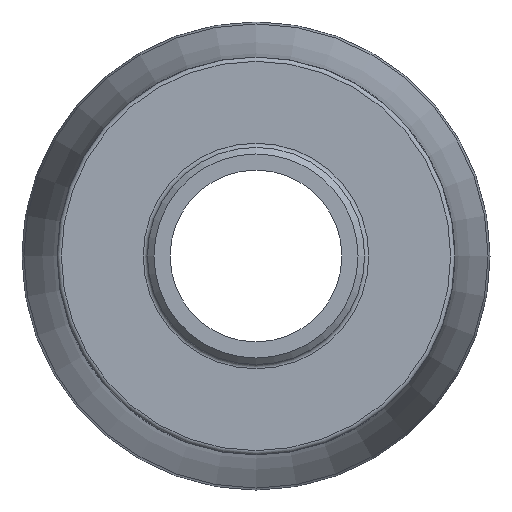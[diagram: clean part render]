
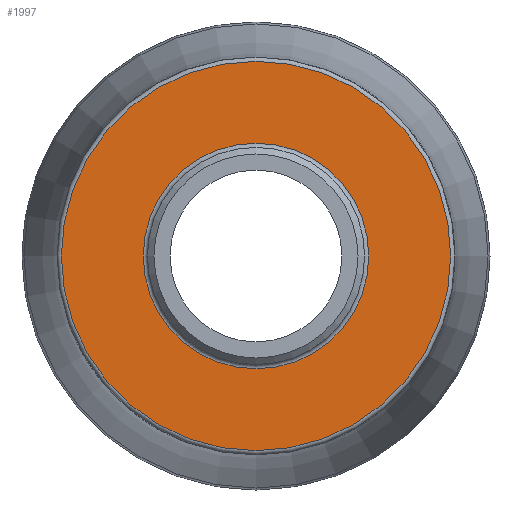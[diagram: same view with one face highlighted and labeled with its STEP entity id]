
A CAD part, left-side view. The second image highlights one B-rep face of the part: STEP entity #1997.
In plain terms, the highlighted planar face has unit normal (-1, 0, 0).
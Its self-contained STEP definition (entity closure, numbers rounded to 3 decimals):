
#202=FACE_BOUND('',#440,.T.);
#224=PLANE('',#2222);
#318=FACE_OUTER_BOUND('',#439,.T.);
#439=EDGE_LOOP('',(#1602,#1603));
#440=EDGE_LOOP('',(#1604,#1605));
#800=CIRCLE('',#2220,24.827);
#801=CIRCLE('',#2221,24.827);
#802=CIRCLE('',#2223,42.85);
#803=CIRCLE('',#2224,42.85);
#953=VERTEX_POINT('',#3543);
#954=VERTEX_POINT('',#3545);
#955=VERTEX_POINT('',#3549);
#956=VERTEX_POINT('',#3550);
#1188=EDGE_CURVE('',#953,#954,#800,.T.);
#1189=EDGE_CURVE('',#954,#953,#801,.T.);
#1190=EDGE_CURVE('',#955,#956,#802,.T.);
#1191=EDGE_CURVE('',#956,#955,#803,.T.);
#1602=ORIENTED_EDGE('',*,*,#1190,.F.);
#1603=ORIENTED_EDGE('',*,*,#1191,.F.);
#1604=ORIENTED_EDGE('',*,*,#1189,.F.);
#1605=ORIENTED_EDGE('',*,*,#1188,.F.);
#1997=ADVANCED_FACE('',(#318,#202),#224,.T.);
#2220=AXIS2_PLACEMENT_3D('',#3546,#2635,#2636);
#2221=AXIS2_PLACEMENT_3D('',#3547,#2637,#2638);
#2222=AXIS2_PLACEMENT_3D('',#3548,#2639,#2640);
#2223=AXIS2_PLACEMENT_3D('',#3551,#2641,#2642);
#2224=AXIS2_PLACEMENT_3D('',#3552,#2643,#2644);
#2635=DIRECTION('center_axis',(-1.,0.,0.));
#2636=DIRECTION('ref_axis',(0.,-1.,0.));
#2637=DIRECTION('center_axis',(-1.,0.,0.));
#2638=DIRECTION('ref_axis',(0.,-1.,0.));
#2639=DIRECTION('center_axis',(-1.,0.,0.));
#2640=DIRECTION('ref_axis',(0.,0.,1.));
#2641=DIRECTION('center_axis',(1.,0.,0.));
#2642=DIRECTION('ref_axis',(0.,-1.,0.));
#2643=DIRECTION('center_axis',(1.,0.,0.));
#2644=DIRECTION('ref_axis',(0.,-1.,0.));
#3543=CARTESIAN_POINT('',(22.,0.,24.827));
#3545=CARTESIAN_POINT('',(22.,24.827,0.));
#3546=CARTESIAN_POINT('Origin',(22.,0.,0.));
#3547=CARTESIAN_POINT('Origin',(22.,0.,0.));
#3548=CARTESIAN_POINT('Origin',(22.,43.775,0.));
#3549=CARTESIAN_POINT('',(22.,42.85,0.));
#3550=CARTESIAN_POINT('',(22.,0.,42.85));
#3551=CARTESIAN_POINT('Origin',(22.,0.,0.));
#3552=CARTESIAN_POINT('Origin',(22.,0.,0.));
